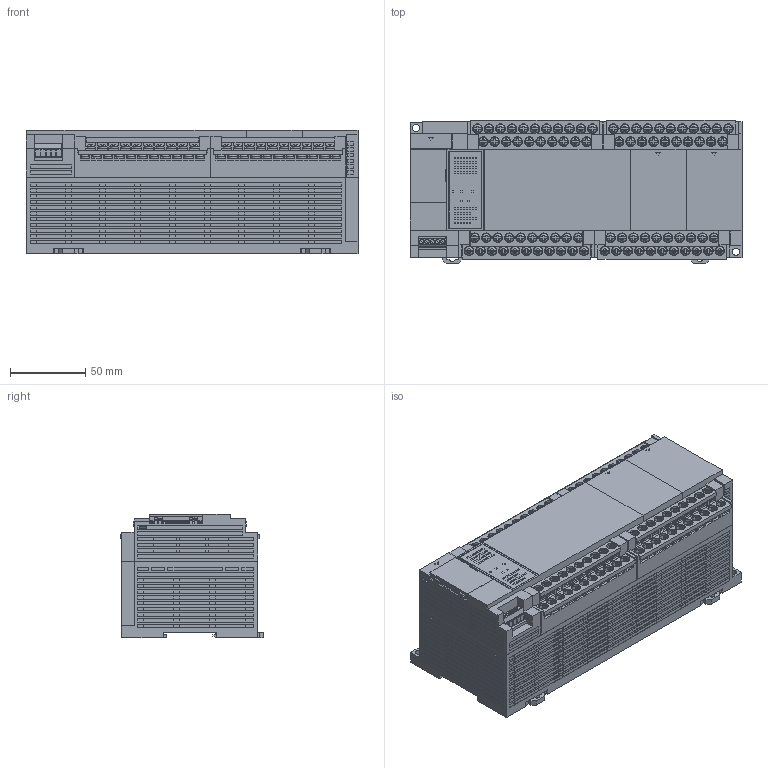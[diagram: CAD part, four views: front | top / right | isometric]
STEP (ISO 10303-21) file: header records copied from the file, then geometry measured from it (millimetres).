
FILE_DESCRIPTION (( 'STEP AP214' ), '1' );
FILE_NAME ('afp-xhc60r.STEP', '2015-07-30T08:29:35', ( 'admin' ), ( '' ), 'SwSTEP 2.0', 'SolidWorks 2010', '' );
FILE_SCHEMA (( 'AUTOMOTIVE_DESIGN' ));
Length unit declared in the file: millimetre
Products named in the file (8): afp-xhc60r; fp-xh_cassettecover_??????; fp-xh_control_cover_??????; fp-xh(fp-xhc60)_??????; fp-xh_terminal_cover(60_out)_??????; fp-xh_battery_cover_??????; fp-xh_dinhook_??????; fp-xh_terminal_cover(60_in)_??????
Assembly tree (15 placements, depth 2):
  afp-xhc60r
    fp-xh_terminal_cover(60_in)_??????  x4
    fp-xh_terminal_cover(60_out)_??????  x4
    fp-xh_dinhook_??????  x2
    fp-xh_control_cover_??????
    fp-xh_battery_cover_??????
    fp-xh_cassettecover_??????  x2
    fp-xh(fp-xhc60)_??????
Bounding box: 220 x 94.75 x 82 mm (x, y, z)
Volume: 1442731.1 mm3; surface area: 179405.5 mm2
Topology: 15 solids, 15 shells, 5414 faces, 14739 edges, 9755 vertices
Faces by surface type: plane 4827, cylinder 419, bspline 168
Entity records: 168076 total; most frequent: CARTESIAN_POINT 37639, ORIENTED_EDGE 27800, DIRECTION 22745, EDGE_CURVE 13900, VECTOR 11623, LINE 11623, VERTEX_POINT 9199, EDGE_LOOP 5565
